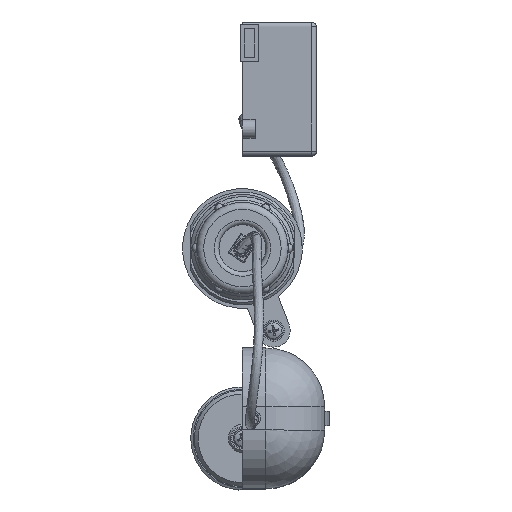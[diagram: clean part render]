
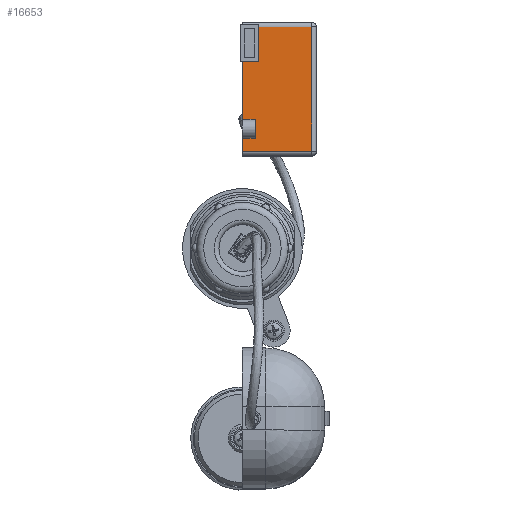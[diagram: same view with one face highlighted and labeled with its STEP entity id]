
A CAD part, top view. The second image highlights one B-rep face of the part: STEP entity #16653.
In plain terms, the highlighted planar face has unit normal (0, 0, 1).
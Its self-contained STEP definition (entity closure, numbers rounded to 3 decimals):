
#393 = LINE ( 'NONE', #11292, #11184 ) ;
#659 = EDGE_CURVE ( 'NONE', #17574, #2102, #1118, .T. ) ;
#763 = EDGE_CURVE ( 'NONE', #6895, #17574, #9684, .T. ) ;
#982 = CARTESIAN_POINT ( 'NONE',  ( 5.496, 71.447, 128.8 ) ) ;
#1067 = PLANE ( 'NONE',  #10633 ) ;
#1068 = VECTOR ( 'NONE', #8906, 1000. ) ;
#1083 = DIRECTION ( 'NONE',  ( 1., 0., 0. ) ) ;
#1118 = LINE ( 'NONE', #14901, #4441 ) ;
#1520 = EDGE_CURVE ( 'NONE', #1893, #10851, #5514, .T. ) ;
#1893 = VERTEX_POINT ( 'NONE', #7049 ) ;
#2102 = VERTEX_POINT ( 'NONE', #11630 ) ;
#2181 = CARTESIAN_POINT ( 'NONE',  ( -0.004, 94.247, 128.8 ) ) ;
#2572 = VECTOR ( 'NONE', #1083, 1000. ) ;
#3638 = EDGE_CURVE ( 'NONE', #17032, #15976, #14750, .T. ) ;
#3756 = CARTESIAN_POINT ( 'NONE',  ( -0.004, 96.247, 128.8 ) ) ;
#4149 = ORIENTED_EDGE ( 'NONE', *, *, #763, .T. ) ;
#4412 = VECTOR ( 'NONE', #10824, 1000. ) ;
#4441 = VECTOR ( 'NONE', #6459, 1000. ) ;
#4712 = DIRECTION ( 'NONE',  ( 1., 0., 0. ) ) ;
#4717 = DIRECTION ( 'NONE',  ( -1., 0., 0. ) ) ;
#4736 = ORIENTED_EDGE ( 'NONE', *, *, #15833, .T. ) ;
#4763 = VECTOR ( 'NONE', #4712, 1000. ) ;
#5192 = VERTEX_POINT ( 'NONE', #10264 ) ;
#5318 = DIRECTION ( 'NONE',  ( 1., 0., 0. ) ) ;
#5514 = LINE ( 'NONE', #10415, #8341 ) ;
#5586 = ORIENTED_EDGE ( 'NONE', *, *, #8944, .F. ) ;
#5610 = EDGE_CURVE ( 'NONE', #15976, #9467, #15355, .T. ) ;
#5888 = VERTEX_POINT ( 'NONE', #8527 ) ;
#6048 = ORIENTED_EDGE ( 'NONE', *, *, #1520, .F. ) ;
#6459 = DIRECTION ( 'NONE',  ( 1., 0., 0. ) ) ;
#6477 = EDGE_CURVE ( 'NONE', #5192, #2102, #393, .T. ) ;
#6673 = DIRECTION ( 'NONE',  ( 1., 0., 0. ) ) ;
#6895 = VERTEX_POINT ( 'NONE', #2181 ) ;
#6911 = LINE ( 'NONE', #13588, #10392 ) ;
#7049 = CARTESIAN_POINT ( 'NONE',  ( 29.496, 41.247, 128.8 ) ) ;
#7705 = EDGE_CURVE ( 'NONE', #6895, #7913, #8943, .T. ) ;
#7913 = VERTEX_POINT ( 'NONE', #16837 ) ;
#8055 = LINE ( 'NONE', #13855, #2572 ) ;
#8066 = VECTOR ( 'NONE', #17458, 1000. ) ;
#8341 = VECTOR ( 'NONE', #4717, 1000. ) ;
#8500 = LINE ( 'NONE', #10542, #8066 ) ;
#8527 = CARTESIAN_POINT ( 'NONE',  ( -0.004, 81.347, 128.8 ) ) ;
#8591 = CARTESIAN_POINT ( 'NONE',  ( -0.004, 54.747, 128.8 ) ) ;
#8631 = VECTOR ( 'NONE', #15454, 1000. ) ;
#8740 = CARTESIAN_POINT ( 'NONE',  ( -0.004, 92.147, 128.8 ) ) ;
#8906 = DIRECTION ( 'NONE',  ( 0., -1., 0. ) ) ;
#8943 = LINE ( 'NONE', #14640, #4763 ) ;
#8944 = EDGE_CURVE ( 'NONE', #5888, #5192, #8055, .T. ) ;
#9074 = CARTESIAN_POINT ( 'NONE',  ( -0.004, 46.747, 128.8 ) ) ;
#9176 = CARTESIAN_POINT ( 'NONE',  ( 5.496, 54.747, 128.8 ) ) ;
#9374 = DIRECTION ( 'NONE',  ( 0., -1., 0. ) ) ;
#9415 = DIRECTION ( 'NONE',  ( 0., 0., 1. ) ) ;
#9467 = VERTEX_POINT ( 'NONE', #9176 ) ;
#9680 = ORIENTED_EDGE ( 'NONE', *, *, #659, .T. ) ;
#9684 = LINE ( 'NONE', #3756, #9897 ) ;
#9897 = VECTOR ( 'NONE', #9374, 1000. ) ;
#9940 = ORIENTED_EDGE ( 'NONE', *, *, #16670, .T. ) ;
#10264 = CARTESIAN_POINT ( 'NONE',  ( 5.496, 81.347, 128.8 ) ) ;
#10392 = VECTOR ( 'NONE', #6673, 1000. ) ;
#10415 = CARTESIAN_POINT ( 'NONE',  ( -0.004, 41.247, 128.8 ) ) ;
#10542 = CARTESIAN_POINT ( 'NONE',  ( -0.004, 96.247, 128.8 ) ) ;
#10633 = AXIS2_PLACEMENT_3D ( 'NONE', #12245, #9415, #12363 ) ;
#10824 = DIRECTION ( 'NONE',  ( 0., 1., 0. ) ) ;
#10851 = VERTEX_POINT ( 'NONE', #13581 ) ;
#10853 = EDGE_LOOP ( 'NONE', ( #6048, #13061, #15281, #4149, #9680, #17646, #5586, #4736, #9940, #16188, #15847, #13541 ) ) ;
#11172 = DIRECTION ( 'NONE',  ( 0., 1., 0. ) ) ;
#11184 = VECTOR ( 'NONE', #11172, 1000. ) ;
#11292 = CARTESIAN_POINT ( 'NONE',  ( 5.496, 71.447, 128.8 ) ) ;
#11626 = CARTESIAN_POINT ( 'NONE',  ( 29.496, 79.947, 128.8 ) ) ;
#11630 = CARTESIAN_POINT ( 'NONE',  ( 5.496, 92.147, 128.8 ) ) ;
#12154 = FACE_OUTER_BOUND ( 'NONE', #10853, .T. ) ;
#12245 = CARTESIAN_POINT ( 'NONE',  ( -0.004, 92.147, 128.8 ) ) ;
#12313 = EDGE_CURVE ( 'NONE', #7913, #1893, #16448, .T. ) ;
#12363 = DIRECTION ( 'NONE',  ( 1., 0., 0. ) ) ;
#12416 = CARTESIAN_POINT ( 'NONE',  ( -0.004, 46.747, 128.8 ) ) ;
#12799 = VERTEX_POINT ( 'NONE', #8591 ) ;
#13061 = ORIENTED_EDGE ( 'NONE', *, *, #12313, .F. ) ;
#13541 = ORIENTED_EDGE ( 'NONE', *, *, #13600, .T. ) ;
#13581 = CARTESIAN_POINT ( 'NONE',  ( -0.004, 41.247, 128.8 ) ) ;
#13588 = CARTESIAN_POINT ( 'NONE',  ( -0.004, 54.747, 128.8 ) ) ;
#13600 = EDGE_CURVE ( 'NONE', #17032, #10851, #8500, .T. ) ;
#13855 = CARTESIAN_POINT ( 'NONE',  ( -0.004, 81.347, 128.8 ) ) ;
#14640 = CARTESIAN_POINT ( 'NONE',  ( -0.004, 94.247, 128.8 ) ) ;
#14750 = LINE ( 'NONE', #12416, #18047 ) ;
#14901 = CARTESIAN_POINT ( 'NONE',  ( -0.004, 92.147, 128.8 ) ) ;
#15281 = ORIENTED_EDGE ( 'NONE', *, *, #7705, .F. ) ;
#15355 = LINE ( 'NONE', #982, #4412 ) ;
#15453 = LINE ( 'NONE', #16872, #8631 ) ;
#15454 = DIRECTION ( 'NONE',  ( 0., -1., 0. ) ) ;
#15575 = CARTESIAN_POINT ( 'NONE',  ( 5.496, 46.747, 128.8 ) ) ;
#15833 = EDGE_CURVE ( 'NONE', #5888, #12799, #15453, .T. ) ;
#15847 = ORIENTED_EDGE ( 'NONE', *, *, #3638, .F. ) ;
#15976 = VERTEX_POINT ( 'NONE', #15575 ) ;
#16188 = ORIENTED_EDGE ( 'NONE', *, *, #5610, .F. ) ;
#16448 = LINE ( 'NONE', #11626, #1068 ) ;
#16653 = ADVANCED_FACE ( 'NONE', ( #12154 ), #1067, .T. ) ;
#16670 = EDGE_CURVE ( 'NONE', #12799, #9467, #6911, .T. ) ;
#16837 = CARTESIAN_POINT ( 'NONE',  ( 29.496, 94.247, 128.8 ) ) ;
#16872 = CARTESIAN_POINT ( 'NONE',  ( -0.004, 96.247, 128.8 ) ) ;
#17032 = VERTEX_POINT ( 'NONE', #9074 ) ;
#17458 = DIRECTION ( 'NONE',  ( 0., -1., 0. ) ) ;
#17574 = VERTEX_POINT ( 'NONE', #8740 ) ;
#17646 = ORIENTED_EDGE ( 'NONE', *, *, #6477, .F. ) ;
#18047 = VECTOR ( 'NONE', #5318, 1000. ) ;
